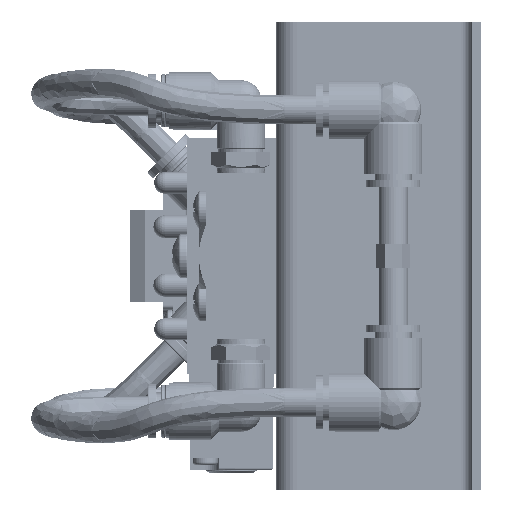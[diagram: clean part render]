
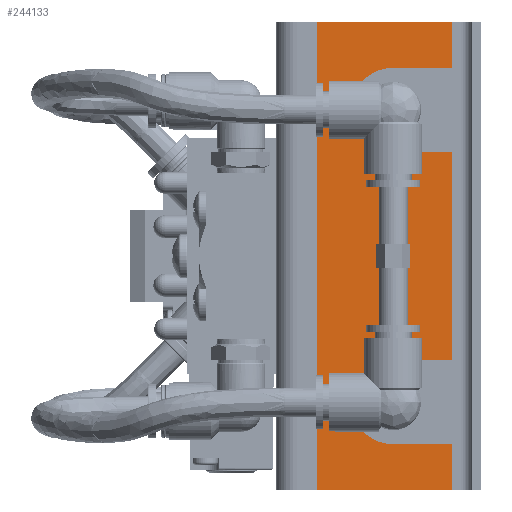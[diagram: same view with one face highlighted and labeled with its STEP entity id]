
A CAD part, left-side view. The second image highlights one B-rep face of the part: STEP entity #244133.
In plain terms, the highlighted planar face has unit normal (-1, 0, 0).
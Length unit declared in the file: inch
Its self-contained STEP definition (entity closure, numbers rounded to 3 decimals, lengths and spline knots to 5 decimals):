
#7772 = CARTESIAN_POINT ( 'NONE',  ( -3.6341, 0.75, 1.609 ) ) ;
#17419 = ORIENTED_EDGE ( 'NONE', *, *, #312204, .T. ) ;
#27512 = DIRECTION ( 'NONE',  ( 0., 0., -1. ) ) ;
#30017 = VECTOR ( 'NONE', #327879, 39.37008 ) ;
#45836 = DIRECTION ( 'NONE',  ( 0., 0., -1. ) ) ;
#46563 = CARTESIAN_POINT ( 'NONE',  ( -3.6341, 0.25, 1.609 ) ) ;
#46960 = PLANE ( 'NONE',  #211915 ) ;
#49424 = CARTESIAN_POINT ( 'NONE',  ( -3.6341, 0.75, 1.609 ) ) ;
#49463 = CARTESIAN_POINT ( 'NONE',  ( -3.6341, 0.75, -0.09375 ) ) ;
#50614 = CARTESIAN_POINT ( 'NONE',  ( -3.6341, 0.25, 0.891 ) ) ;
#58004 = CIRCLE ( 'NONE', #216635, 0.09375 ) ;
#58247 = CARTESIAN_POINT ( 'NONE',  ( -3.6341, 0.25, -0.891 ) ) ;
#59764 = CARTESIAN_POINT ( 'NONE',  ( -3.6341, 0.25, -0.891 ) ) ;
#59844 = VERTEX_POINT ( 'NONE', #175732 ) ;
#60945 = VERTEX_POINT ( 'NONE', #58247 ) ;
#61797 = VECTOR ( 'NONE', #86433, 39.37008 ) ;
#63013 = CIRCLE ( 'NONE', #139395, 0.359 ) ;
#63189 = EDGE_CURVE ( 'NONE', #312001, #236393, #188644, .T. ) ;
#72436 = CARTESIAN_POINT ( 'NONE',  ( -3.6341, 0.25, 2. ) ) ;
#73621 = VERTEX_POINT ( 'NONE', #95777 ) ;
#74295 = CIRCLE ( 'NONE', #306697, 0.09375 ) ;
#80369 = CARTESIAN_POINT ( 'NONE',  ( -3.6341, 1.4, 2. ) ) ;
#81012 = EDGE_CURVE ( 'NONE', #241708, #59844, #332157, .T. ) ;
#82287 = DIRECTION ( 'NONE',  ( 0., 0., -1. ) ) ;
#84323 = CARTESIAN_POINT ( 'NONE',  ( -3.6341, 0.25, -1.609 ) ) ;
#85983 = DIRECTION ( 'NONE',  ( 0., -1., 0. ) ) ;
#86433 = DIRECTION ( 'NONE',  ( 0., -1., 0. ) ) ;
#95753 = CARTESIAN_POINT ( 'NONE',  ( -3.6341, 0.25, 2. ) ) ;
#95777 = CARTESIAN_POINT ( 'NONE',  ( -3.6341, 0.25, -2. ) ) ;
#97252 = DIRECTION ( 'NONE',  ( 1., 0., 0. ) ) ;
#103724 = CARTESIAN_POINT ( 'NONE',  ( -3.6341, 0.75, 0.891 ) ) ;
#104326 = LINE ( 'NONE', #293270, #173711 ) ;
#116294 = DIRECTION ( 'NONE',  ( 0., 0., 1. ) ) ;
#126218 = DIRECTION ( 'NONE',  ( 1., 0., 0. ) ) ;
#133232 = ORIENTED_EDGE ( 'NONE', *, *, #322212, .T. ) ;
#134391 = VECTOR ( 'NONE', #85983, 39.37008 ) ;
#135559 = VERTEX_POINT ( 'NONE', #49463 ) ;
#139029 = FACE_BOUND ( 'NONE', #197537, .T. ) ;
#139395 = AXIS2_PLACEMENT_3D ( 'NONE', #148567, #254510, #45836 ) ;
#143283 = LINE ( 'NONE', #270667, #159581 ) ;
#146090 = VERTEX_POINT ( 'NONE', #46563 ) ;
#146654 = LINE ( 'NONE', #214966, #203816 ) ;
#147552 = EDGE_CURVE ( 'NONE', #214542, #146090, #196364, .T. ) ;
#148567 = CARTESIAN_POINT ( 'NONE',  ( -3.6341, 0.75, 1.25 ) ) ;
#148692 = VECTOR ( 'NONE', #176892, 39.37008 ) ;
#149859 = EDGE_LOOP ( 'NONE', ( #216087, #223092, #312122, #17419, #181960, #205599, #133232, #324454, #164048, #325987, #197254, #245404 ) ) ;
#151406 = FACE_OUTER_BOUND ( 'NONE', #149859, .T. ) ;
#158765 = DIRECTION ( 'NONE',  ( 1., 0., 0. ) ) ;
#159581 = VECTOR ( 'NONE', #322003, 39.37008 ) ;
#162531 = DIRECTION ( 'NONE',  ( 0., 1., 0. ) ) ;
#162561 = VERTEX_POINT ( 'NONE', #315900 ) ;
#163159 = EDGE_CURVE ( 'NONE', #73621, #162561, #262114, .T. ) ;
#164048 = ORIENTED_EDGE ( 'NONE', *, *, #235129, .F. ) ;
#168406 = VECTOR ( 'NONE', #308480, 39.37008 ) ;
#172888 = CARTESIAN_POINT ( 'NONE',  ( -3.6341, 0.75, 0.09375 ) ) ;
#173711 = VECTOR ( 'NONE', #82287, 39.37008 ) ;
#175732 = CARTESIAN_POINT ( 'NONE',  ( -3.6341, 0.75, -1.609 ) ) ;
#176008 = EDGE_CURVE ( 'NONE', #241708, #73621, #246663, .T. ) ;
#176892 = DIRECTION ( 'NONE',  ( 0., -1., 0. ) ) ;
#178220 = EDGE_CURVE ( 'NONE', #269520, #135559, #58004, .T. ) ;
#179665 = CARTESIAN_POINT ( 'NONE',  ( -3.6341, 0.25, 0.891 ) ) ;
#181960 = ORIENTED_EDGE ( 'NONE', *, *, #305256, .F. ) ;
#183825 = CIRCLE ( 'NONE', #205698, 0.359 ) ;
#183899 = CARTESIAN_POINT ( 'NONE',  ( -3.6341, 0.75, 0. ) ) ;
#188644 = LINE ( 'NONE', #50614, #168406 ) ;
#192219 = VERTEX_POINT ( 'NONE', #80369 ) ;
#192916 = VERTEX_POINT ( 'NONE', #95753 ) ;
#193084 = ORIENTED_EDGE ( 'NONE', *, *, #178220, .T. ) ;
#196364 = LINE ( 'NONE', #7772, #61797 ) ;
#197254 = ORIENTED_EDGE ( 'NONE', *, *, #237100, .F. ) ;
#197537 = EDGE_LOOP ( 'NONE', ( #225852, #193084 ) ) ;
#202607 = DIRECTION ( 'NONE',  ( 0., 0., -1. ) ) ;
#203197 = CARTESIAN_POINT ( 'NONE',  ( -3.6341, 0.25, -2. ) ) ;
#203816 = VECTOR ( 'NONE', #216056, 39.37008 ) ;
#205599 = ORIENTED_EDGE ( 'NONE', *, *, #63189, .T. ) ;
#205698 = AXIS2_PLACEMENT_3D ( 'NONE', #272537, #244115, #116294 ) ;
#211915 = AXIS2_PLACEMENT_3D ( 'NONE', #203197, #97252, #225031 ) ;
#214542 = VERTEX_POINT ( 'NONE', #49424 ) ;
#214966 = CARTESIAN_POINT ( 'NONE',  ( -3.6341, 1.4, 2. ) ) ;
#216056 = DIRECTION ( 'NONE',  ( 0., 0., 1. ) ) ;
#216087 = ORIENTED_EDGE ( 'NONE', *, *, #176008, .F. ) ;
#216635 = AXIS2_PLACEMENT_3D ( 'NONE', #280230, #126218, #202607 ) ;
#217346 = VECTOR ( 'NONE', #162531, 39.37008 ) ;
#223092 = ORIENTED_EDGE ( 'NONE', *, *, #81012, .T. ) ;
#225031 = DIRECTION ( 'NONE',  ( 0., 0., -1. ) ) ;
#225852 = ORIENTED_EDGE ( 'NONE', *, *, #258108, .T. ) ;
#232044 = DIRECTION ( 'NONE',  ( 0., 0., -1. ) ) ;
#235129 = EDGE_CURVE ( 'NONE', #192916, #146090, #104326, .T. ) ;
#236393 = VERTEX_POINT ( 'NONE', #103724 ) ;
#237100 = EDGE_CURVE ( 'NONE', #162561, #192219, #146654, .T. ) ;
#241708 = VERTEX_POINT ( 'NONE', #84323 ) ;
#244115 = DIRECTION ( 'NONE',  ( 1., 0., 0. ) ) ;
#244133 = ADVANCED_FACE ( 'NONE', ( #139029, #151406 ), #46960, .F. ) ;
#245404 = ORIENTED_EDGE ( 'NONE', *, *, #163159, .F. ) ;
#246663 = LINE ( 'NONE', #72436, #303980 ) ;
#252449 = CARTESIAN_POINT ( 'NONE',  ( -3.6341, 0.75, -1.609 ) ) ;
#253383 = VERTEX_POINT ( 'NONE', #263585 ) ;
#254510 = DIRECTION ( 'NONE',  ( 1., 0., 0. ) ) ;
#258108 = EDGE_CURVE ( 'NONE', #135559, #269520, #74295, .T. ) ;
#262114 = LINE ( 'NONE', #289175, #217346 ) ;
#263585 = CARTESIAN_POINT ( 'NONE',  ( -3.6341, 0.75, -0.891 ) ) ;
#269520 = VERTEX_POINT ( 'NONE', #172888 ) ;
#270667 = CARTESIAN_POINT ( 'NONE',  ( -3.6341, 0.25, 2. ) ) ;
#272537 = CARTESIAN_POINT ( 'NONE',  ( -3.6341, 0.75, -1.25 ) ) ;
#280230 = CARTESIAN_POINT ( 'NONE',  ( -3.6341, 0.75, 0. ) ) ;
#284023 = EDGE_CURVE ( 'NONE', #192219, #192916, #299964, .T. ) ;
#285311 = EDGE_CURVE ( 'NONE', #59844, #253383, #183825, .T. ) ;
#289175 = CARTESIAN_POINT ( 'NONE',  ( -3.6341, 1.4, -2. ) ) ;
#293270 = CARTESIAN_POINT ( 'NONE',  ( -3.6341, 0.25, 2. ) ) ;
#299964 = LINE ( 'NONE', #309245, #148692 ) ;
#303980 = VECTOR ( 'NONE', #232044, 39.37008 ) ;
#305256 = EDGE_CURVE ( 'NONE', #312001, #60945, #143283, .T. ) ;
#306697 = AXIS2_PLACEMENT_3D ( 'NONE', #183899, #158765, #27512 ) ;
#308480 = DIRECTION ( 'NONE',  ( 0., 1., 0. ) ) ;
#309245 = CARTESIAN_POINT ( 'NONE',  ( -3.6341, 1.4, 2. ) ) ;
#312001 = VERTEX_POINT ( 'NONE', #179665 ) ;
#312122 = ORIENTED_EDGE ( 'NONE', *, *, #285311, .T. ) ;
#312204 = EDGE_CURVE ( 'NONE', #253383, #60945, #334299, .T. ) ;
#315900 = CARTESIAN_POINT ( 'NONE',  ( -3.6341, 1.4, -2. ) ) ;
#322003 = DIRECTION ( 'NONE',  ( 0., 0., -1. ) ) ;
#322212 = EDGE_CURVE ( 'NONE', #236393, #214542, #63013, .T. ) ;
#324454 = ORIENTED_EDGE ( 'NONE', *, *, #147552, .T. ) ;
#325987 = ORIENTED_EDGE ( 'NONE', *, *, #284023, .F. ) ;
#327879 = DIRECTION ( 'NONE',  ( 0., 1., 0. ) ) ;
#332157 = LINE ( 'NONE', #252449, #30017 ) ;
#334299 = LINE ( 'NONE', #59764, #134391 ) ;
